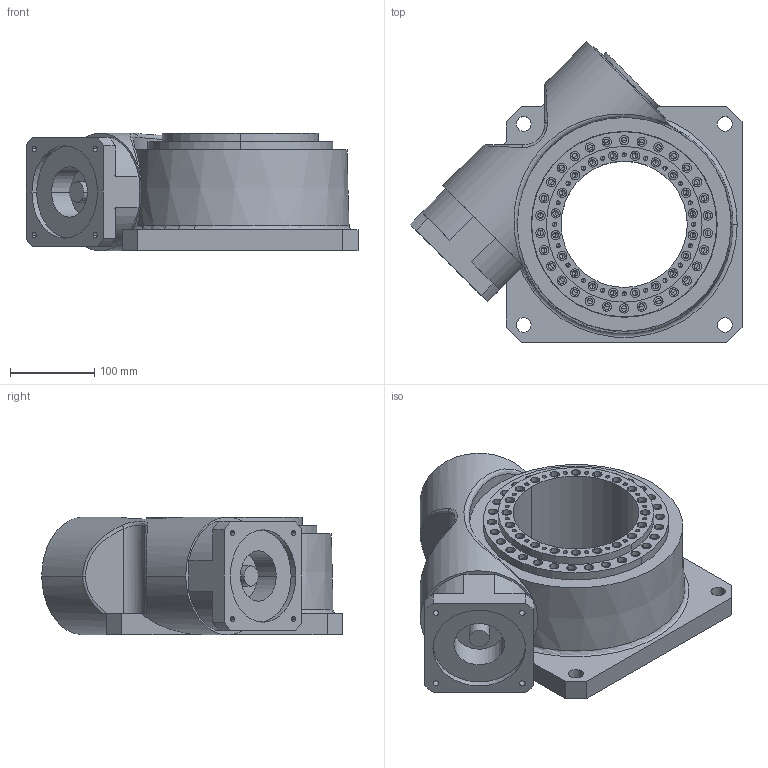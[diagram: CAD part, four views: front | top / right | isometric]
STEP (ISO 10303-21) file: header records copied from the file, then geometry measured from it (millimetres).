
FILE_DESCRIPTION (( 'STEP AP203' ), '1' );
FILE_NAME ('PT -HT150萇雄唅蛌怢.STEP', '2025-10-29T03:49:40', ( 'Microsoft' ), ( 'Microsoft' ), 'SwSTEP 2.0', 'SolidWorks 2023', '' );
FILE_SCHEMA (( 'CONFIG_CONTROL_DESIGN' ));
Length unit declared in the file: millimetre
Products named in the file (3): PT-HT150转台环; PT -HT150电动旋转台; PT-HT150基座
Assembly tree (2 placements, depth 2):
  PT -HT150电动旋转台
    PT-HT150基座
    PT-HT150转台环
Bounding box: 394.56 x 357.08 x 140 mm (x, y, z)
Volume: 6960401.3 mm3; surface area: 608421.9 mm2
Topology: 2 solids, 2 shells, 543 faces, 1309 edges, 801 vertices
Faces by surface type: cylinder 346, plane 101, cone 89, bspline 5, torus 2
Entity records: 17046 total; most frequent: CARTESIAN_POINT 3717, DIRECTION 2989, ORIENTED_EDGE 2458, AXIS2_PLACEMENT_3D 1247, EDGE_CURVE 1229, VERTEX_POINT 801, EDGE_LOOP 758, CIRCLE 704
